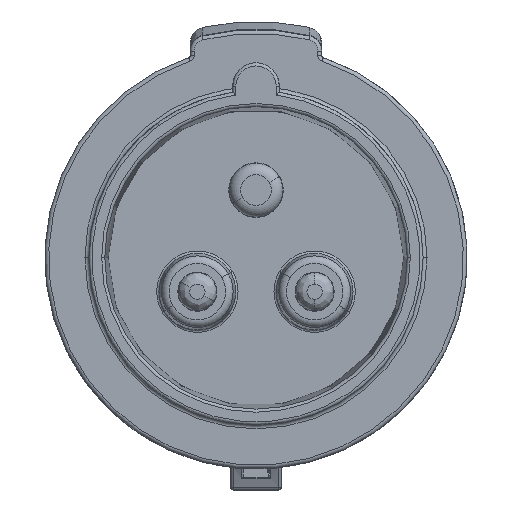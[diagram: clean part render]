
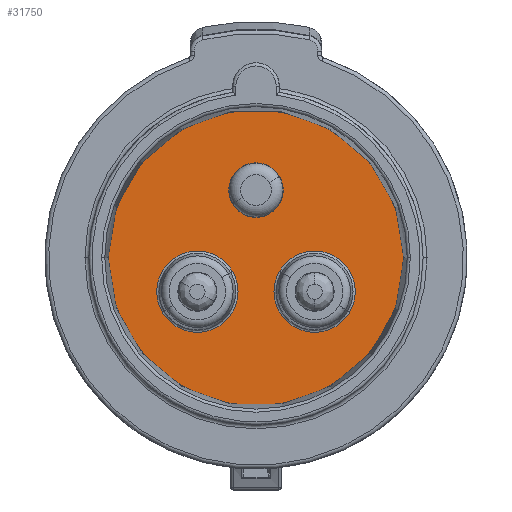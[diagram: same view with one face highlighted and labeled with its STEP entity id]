
A CAD part, front view. The second image highlights one B-rep face of the part: STEP entity #31750.
In plain terms, the highlighted planar face has unit normal (0, -1, 0).
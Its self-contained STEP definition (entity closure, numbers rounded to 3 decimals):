
#307=CARTESIAN_POINT('',(0.,0.,8.75));
#308=DIRECTION('',(0.,1.,0.));
#309=DIRECTION('',(1.,0.,0.));
#310=AXIS2_PLACEMENT_3D('',#307,#308,#309);
#312=CARTESIAN_POINT('',(0.,0.,8.75));
#313=DIRECTION('',(0.,1.,0.));
#314=DIRECTION('',(-1.,0.,0.));
#315=AXIS2_PLACEMENT_3D('',#312,#313,#314);
#317=CARTESIAN_POINT('',(0.,0.,0.));
#318=DIRECTION('',(0.,-1.,0.));
#319=DIRECTION('',(-1.,0.,0.));
#320=AXIS2_PLACEMENT_3D('',#317,#318,#319);
#25892=CARTESIAN_POINT('',(0.,0.,0.));
#25893=DIRECTION('',(0.,1.,0.));
#25894=DIRECTION('',(-1.,0.,0.));
#25895=AXIS2_PLACEMENT_3D('',#25892,#25893,#25894);
#25967=CARTESIAN_POINT('',(-7.578,0.,-4.375));
#25968=DIRECTION('',(0.,-1.,0.));
#25969=DIRECTION('',(0.866,0.,0.5));
#25970=AXIS2_PLACEMENT_3D('',#25967,#25968,#25969);
#25982=CARTESIAN_POINT('',(-7.578,0.,-4.375));
#25983=DIRECTION('',(0.,-1.,0.));
#25984=DIRECTION('',(-0.866,0.,-0.5));
#25985=AXIS2_PLACEMENT_3D('',#25982,#25983,#25984);
#26129=CARTESIAN_POINT('',(7.578,0.,-4.375));
#26130=DIRECTION('',(0.,-1.,0.));
#26131=DIRECTION('',(0.866,0.,-0.5));
#26132=AXIS2_PLACEMENT_3D('',#26129,#26130,#26131);
#26144=CARTESIAN_POINT('',(7.578,0.,-4.375));
#26145=DIRECTION('',(0.,-1.,0.));
#26146=DIRECTION('',(-0.866,0.,0.5));
#26147=AXIS2_PLACEMENT_3D('',#26144,#26145,#26146);
#26291=CARTESIAN_POINT('',(-19.1,0.,0.));
#26292=CARTESIAN_POINT('',(19.1,0.,0.));
#26293=VERTEX_POINT('',#26291);
#26294=VERTEX_POINT('',#26292);
#26295=CARTESIAN_POINT('',(3.525,0.,8.75));
#26296=CARTESIAN_POINT('',(-3.525,0.,8.75));
#26297=VERTEX_POINT('',#26295);
#26298=VERTEX_POINT('',#26296);
#26339=CARTESIAN_POINT('',(-3.024,0.,-1.746));
#26340=CARTESIAN_POINT('',(-12.131,0.,-7.004));
#26341=VERTEX_POINT('',#26339);
#26342=VERTEX_POINT('',#26340);
#26347=CARTESIAN_POINT('',(12.131,0.,-7.004));
#26348=CARTESIAN_POINT('',(3.024,0.,-1.746));
#26349=VERTEX_POINT('',#26347);
#26350=VERTEX_POINT('',#26348);
#31721=CARTESIAN_POINT('',(0.,0.,0.));
#31722=DIRECTION('',(0.,-1.,0.));
#31723=DIRECTION('',(1.,0.,0.));
#31724=AXIS2_PLACEMENT_3D('',#31721,#31722,#31723);
#31725=PLANE('29',#31724);
#31727=ORIENTED_EDGE('1840',*,*,#31726,.F.);
#31729=ORIENTED_EDGE('1841',*,*,#31728,.T.);
#31730=EDGE_LOOP('29',(#31727,#31729));
#31731=FACE_OUTER_BOUND('29',#31730,.F.);
#31733=ORIENTED_EDGE('1842',*,*,#31732,.F.);
#31735=ORIENTED_EDGE('1843',*,*,#31734,.F.);
#31736=EDGE_LOOP('29',(#31733,#31735));
#31737=FACE_BOUND('29',#31736,.F.);
#31739=ORIENTED_EDGE('1868',*,*,#31738,.T.);
#31741=ORIENTED_EDGE('1870',*,*,#31740,.T.);
#31742=EDGE_LOOP('29',(#31739,#31741));
#31743=FACE_BOUND('29',#31742,.F.);
#31745=ORIENTED_EDGE('1872',*,*,#31744,.T.);
#31747=ORIENTED_EDGE('1874',*,*,#31746,.T.);
#31748=EDGE_LOOP('29',(#31745,#31747));
#31749=FACE_BOUND('29',#31748,.F.);
#311=CIRCLE('1842',#310,3.525);
#316=CIRCLE('1843',#315,3.525);
#321=CIRCLE('1840',#320,19.1);
#25896=CIRCLE('1841',#25895,19.1);
#25971=CIRCLE('1868',#25970,5.258);
#25986=CIRCLE('1870',#25985,5.258);
#26133=CIRCLE('1872',#26132,5.258);
#26148=CIRCLE('1874',#26147,5.258);
#31726=EDGE_CURVE('1840',#26293,#26294,#321,.T.);
#31728=EDGE_CURVE('1841',#26293,#26294,#25896,.T.);
#31732=EDGE_CURVE('1842',#26297,#26298,#311,.T.);
#31734=EDGE_CURVE('1843',#26298,#26297,#316,.T.);
#31738=EDGE_CURVE('1868',#26341,#26342,#25971,.T.);
#31740=EDGE_CURVE('1870',#26342,#26341,#25986,.T.);
#31744=EDGE_CURVE('1872',#26349,#26350,#26133,.T.);
#31746=EDGE_CURVE('1874',#26350,#26349,#26148,.T.);
#31750=ADVANCED_FACE('29',(#31731,#31737,#31743,#31749),#31725,.T.);
